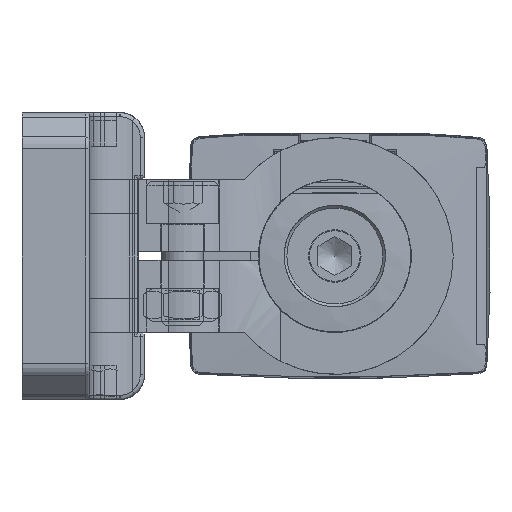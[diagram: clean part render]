
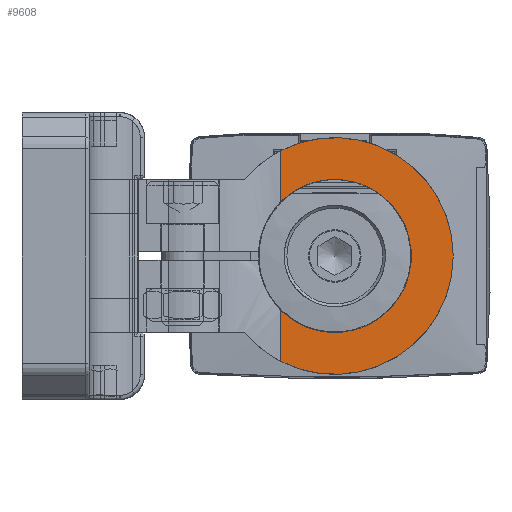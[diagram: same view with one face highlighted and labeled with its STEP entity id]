
A CAD part, left-side view. The second image highlights one B-rep face of the part: STEP entity #9608.
In plain terms, the highlighted planar face has unit normal (-1, 0, 0) as drawn and (0, 0, 1) by its records, which use the part's own axes.
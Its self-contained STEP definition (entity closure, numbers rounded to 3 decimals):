
#8848=CARTESIAN_POINT('',(-6.381,-12.461,6.));
#8849=VERTEX_POINT('',#8848);
#8866=CARTESIAN_POINT('',(-6.381,-6.418,6.));
#8867=VERTEX_POINT('',#8866);
#8868=CARTESIAN_POINT('',(-6.381,-6.418,6.));
#8869=DIRECTION('',(0.0,-1.0,0.0));
#8870=VECTOR('',#8869,6.044);
#8871=LINE('',#8868,#8870);
#8872=EDGE_CURVE('',#8867,#8849,#8871,.T.);
#9417=CARTESIAN_POINT('',(-6.381,6.418,6.));
#9418=VERTEX_POINT('',#9417);
#9432=CARTESIAN_POINT('',(-6.381,12.461,6.));
#9433=VERTEX_POINT('',#9432);
#9434=CARTESIAN_POINT('',(-6.381,6.418,6.));
#9435=DIRECTION('',(0.0,1.0,0.0));
#9436=VECTOR('',#9435,6.044);
#9437=LINE('',#9434,#9436);
#9438=EDGE_CURVE('',#9418,#9433,#9437,.T.);
#9484=CARTESIAN_POINT('',(0.0,0.0,6.));
#9485=DIRECTION('',(0.0,0.0,-1.0));
#9486=DIRECTION('',(-1.0,0.0,0.0));
#9487=AXIS2_PLACEMENT_3D('',#9484,#9485,#9486);
#9488=CIRCLE('',#9487,9.05);
#9489=EDGE_CURVE('',#9418,#8867,#9488,.T.);
#9591=CARTESIAN_POINT('',(0.,4.91,6.));
#9592=DIRECTION('',(0.0,0.0,1.0));
#9593=DIRECTION('',(1.0,0.0,0.0));
#9594=AXIS2_PLACEMENT_3D('',#9591,#9592,#9593);
#9595=PLANE('',#9594);
#9596=ORIENTED_EDGE('',*,*,#9489,.T.);
#9597=ORIENTED_EDGE('',*,*,#8872,.T.);
#9598=CARTESIAN_POINT('',(0.0,0.0,6.));
#9599=DIRECTION('',(0.0,0.0,-1.0));
#9600=DIRECTION('',(1.0,0.0,0.0));
#9601=AXIS2_PLACEMENT_3D('',#9598,#9599,#9600);
#9602=CIRCLE('',#9601,14.);
#9603=EDGE_CURVE('',#9433,#8849,#9602,.T.);
#9604=ORIENTED_EDGE('',*,*,#9603,.F.);
#9605=ORIENTED_EDGE('',*,*,#9438,.F.);
#9606=EDGE_LOOP('',(#9596,#9597,#9604,#9605));
#9607=FACE_OUTER_BOUND('',#9606,.T.);
#9608=ADVANCED_FACE('',(#9607),#9595,.T.);
